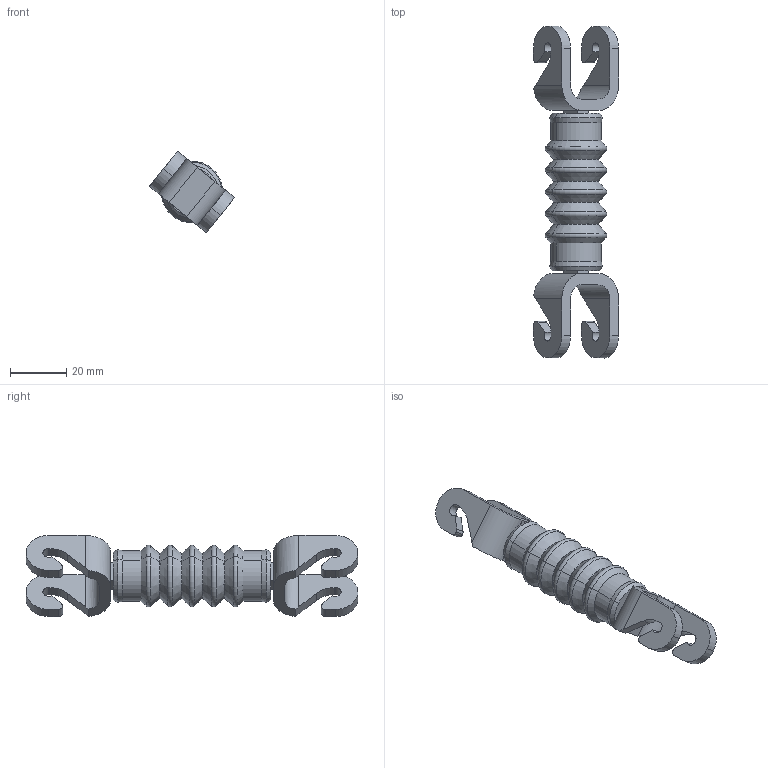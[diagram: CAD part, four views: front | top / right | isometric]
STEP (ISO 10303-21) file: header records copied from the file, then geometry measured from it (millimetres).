
FILE_DESCRIPTION (( 'STEP AP214' ), '1' );
FILE_NAME ('IRB360_X-1130-WD-3D_rev03_LA1_CL_CAD.STEP', '2023-12-04T08:09:40', ( '' ), ( '' ), 'SwSTEP 2.0', 'SolidWorks 2022', '' );
FILE_SCHEMA (( 'AUTOMOTIVE_DESIGN' ));
Length unit declared in the file: millimetre
Products named in the file (1): IRB360_X-1130-WD-3D_rev03_LA1_CL_CAD
Bounding box: 30.27 x 118 x 28.83 mm (x, y, z)
Volume: 24157.4 mm3; surface area: 10290.8 mm2
Topology: 3 solids, 3 shells, 134 faces, 322 edges, 196 vertices
Faces by surface type: plane 42, cylinder 38, cone 28, torus 26
Entity records: 3944 total; most frequent: DIRECTION 738, CARTESIAN_POINT 677, ORIENTED_EDGE 644, EDGE_CURVE 322, AXIS2_PLACEMENT_3D 289, VERTEX_POINT 196, VECTOR 160, LINE 160
